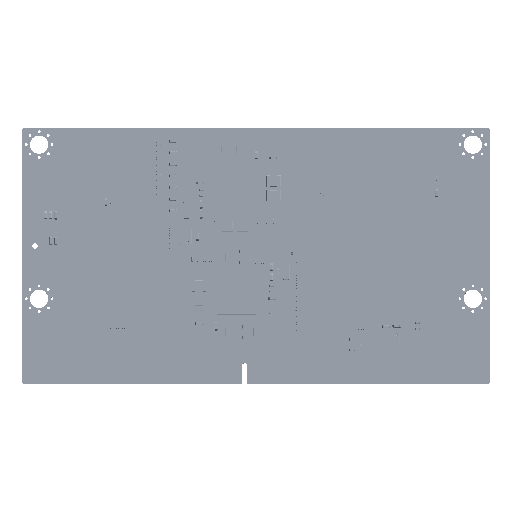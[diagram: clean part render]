
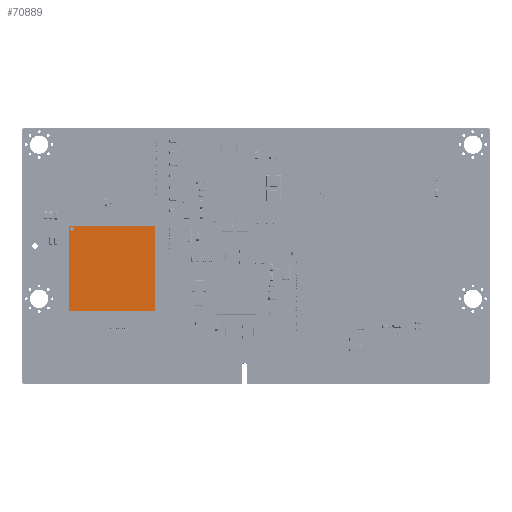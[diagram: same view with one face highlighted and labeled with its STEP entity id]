
A CAD part, top view. The second image highlights one B-rep face of the part: STEP entity #70889.
In plain terms, the highlighted planar face has unit normal (0, 0, 1) as drawn and (0, 1, 0) by its records, which use the part's own axes.
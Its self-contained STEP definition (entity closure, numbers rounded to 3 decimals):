
#143 = AXIS2_PLACEMENT_3D ( 'NONE', #136211, #21090, #5210 ) ;
#5210 = DIRECTION ( 'NONE',  ( 1., 0., 0. ) ) ;
#6931 = VECTOR ( 'NONE', #27494, 1000. ) ;
#8086 = VERTEX_POINT ( 'NONE', #83620 ) ;
#8297 = EDGE_CURVE ( 'NONE', #105812, #8086, #125735, .T. ) ;
#8406 = EDGE_CURVE ( 'NONE', #10698, #167626, #116179, .T. ) ;
#10698 = VERTEX_POINT ( 'NONE', #173759 ) ;
#13616 = ORIENTED_EDGE ( 'NONE', *, *, #195147, .T. ) ;
#21090 = DIRECTION ( 'NONE',  ( 0., 1., 0. ) ) ;
#25233 = PLANE ( 'NONE',  #143 ) ;
#27494 = DIRECTION ( 'NONE',  ( 0., 0., -1. ) ) ;
#32695 = EDGE_CURVE ( 'NONE', #8086, #167626, #62795, .T. ) ;
#32805 = CARTESIAN_POINT ( 'NONE',  ( 15., 1.5, -15. ) ) ;
#46501 = CARTESIAN_POINT ( 'NONE',  ( 0., 1.5, 0. ) ) ;
#46946 = CARTESIAN_POINT ( 'NONE',  ( 0., 1.5, -15. ) ) ;
#48691 = ORIENTED_EDGE ( 'NONE', *, *, #8406, .T. ) ;
#57780 = DIRECTION ( 'NONE',  ( 1., 0., 0. ) ) ;
#62795 = LINE ( 'NONE', #46946, #166047 ) ;
#64677 = VECTOR ( 'NONE', #113039, 1000. ) ;
#70889 = ADVANCED_FACE ( 'NONE', ( #149982 ), #25233, .T. ) ;
#83362 = CARTESIAN_POINT ( 'NONE',  ( 15., 1.5, 0. ) ) ;
#83620 = CARTESIAN_POINT ( 'NONE',  ( 0., 1.5, -15. ) ) ;
#105812 = VERTEX_POINT ( 'NONE', #125995 ) ;
#106371 = CARTESIAN_POINT ( 'NONE',  ( 0., 1.5, 0. ) ) ;
#113039 = DIRECTION ( 'NONE',  ( 0., 0., -1. ) ) ;
#116179 = LINE ( 'NONE', #83362, #64677 ) ;
#125588 = EDGE_LOOP ( 'NONE', ( #139501, #13616, #48691, #187968 ) ) ;
#125735 = LINE ( 'NONE', #46501, #6931 ) ;
#125995 = CARTESIAN_POINT ( 'NONE',  ( 0., 1.5, 0. ) ) ;
#128273 = DIRECTION ( 'NONE',  ( 1., 0., 0. ) ) ;
#136211 = CARTESIAN_POINT ( 'NONE',  ( 0., 1.5, 0. ) ) ;
#139501 = ORIENTED_EDGE ( 'NONE', *, *, #8297, .F. ) ;
#144138 = VECTOR ( 'NONE', #57780, 1000. ) ;
#149982 = FACE_OUTER_BOUND ( 'NONE', #125588, .T. ) ;
#166047 = VECTOR ( 'NONE', #128273, 1000. ) ;
#167626 = VERTEX_POINT ( 'NONE', #32805 ) ;
#172852 = LINE ( 'NONE', #106371, #144138 ) ;
#173759 = CARTESIAN_POINT ( 'NONE',  ( 15., 1.5, 0. ) ) ;
#187968 = ORIENTED_EDGE ( 'NONE', *, *, #32695, .F. ) ;
#195147 = EDGE_CURVE ( 'NONE', #105812, #10698, #172852, .T. ) ;
